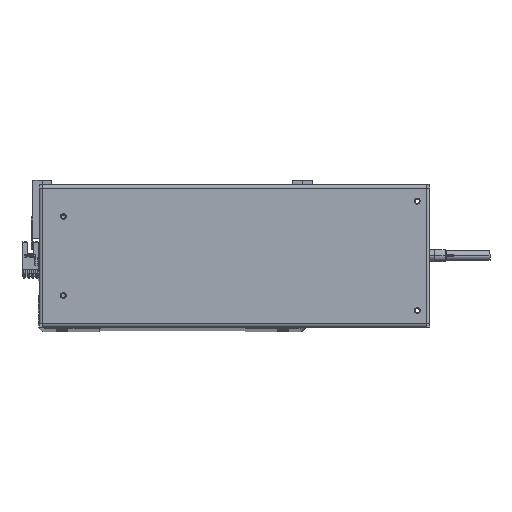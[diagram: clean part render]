
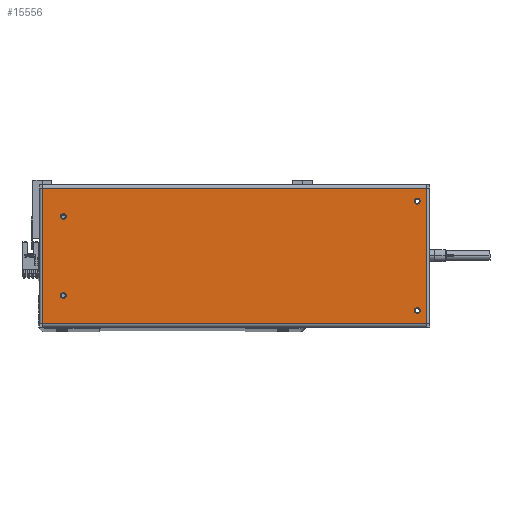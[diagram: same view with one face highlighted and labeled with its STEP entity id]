
A CAD part, top view. The second image highlights one B-rep face of the part: STEP entity #15556.
In plain terms, the highlighted planar face has unit normal (0, 0, 1).
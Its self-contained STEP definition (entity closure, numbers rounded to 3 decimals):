
#270 = EDGE_CURVE ( 'NONE', #4232, #35896, #33944, .T. ) ;
#750 = ORIENTED_EDGE ( 'NONE', *, *, #12958, .F. ) ;
#821 = CARTESIAN_POINT ( 'NONE',  ( 153., -45., 0. ) ) ;
#872 = ORIENTED_EDGE ( 'NONE', *, *, #11040, .F. ) ;
#2056 = EDGE_CURVE ( 'NONE', #13620, #38902, #14564, .T. ) ;
#2693 = CIRCLE ( 'NONE', #19523, 2.5 ) ;
#2898 = ORIENTED_EDGE ( 'NONE', *, *, #24086, .F. ) ;
#3697 = CARTESIAN_POINT ( 'NONE',  ( 150.5, 45., 0. ) ) ;
#3959 = DIRECTION ( 'NONE',  ( 0., 0., 1. ) ) ;
#4169 = VERTEX_POINT ( 'NONE', #821 ) ;
#4232 = VERTEX_POINT ( 'NONE', #16739 ) ;
#4768 = AXIS2_PLACEMENT_3D ( 'NONE', #40875, #31080, #34196 ) ;
#5448 = DIRECTION ( 'NONE',  ( 0., -1., 0. ) ) ;
#5693 = ORIENTED_EDGE ( 'NONE', *, *, #10667, .F. ) ;
#6154 = EDGE_CURVE ( 'NONE', #35896, #4232, #10100, .T. ) ;
#6794 = CARTESIAN_POINT ( 'NONE',  ( 157.7, 55.6, 0. ) ) ;
#6943 = ORIENTED_EDGE ( 'NONE', *, *, #2056, .T. ) ;
#7326 = ORIENTED_EDGE ( 'NONE', *, *, #270, .F. ) ;
#7373 = DIRECTION ( 'NONE',  ( 0., 0., 1. ) ) ;
#7808 = AXIS2_PLACEMENT_3D ( 'NONE', #3697, #3959, #17004 ) ;
#7946 = DIRECTION ( 'NONE',  ( 0., 0., 1. ) ) ;
#9148 = VERTEX_POINT ( 'NONE', #16292 ) ;
#9150 = CIRCLE ( 'NONE', #15466, 2.5 ) ;
#9424 = EDGE_CURVE ( 'NONE', #23145, #9148, #32708, .T. ) ;
#9577 = LINE ( 'NONE', #10170, #18213 ) ;
#10044 = CARTESIAN_POINT ( 'NONE',  ( -143., 32.5, 0. ) ) ;
#10100 = CIRCLE ( 'NONE', #18856, 2.5 ) ;
#10170 = CARTESIAN_POINT ( 'NONE',  ( -157.7, -55.6, 0. ) ) ;
#10316 = CARTESIAN_POINT ( 'NONE',  ( 148., -45., 0. ) ) ;
#10516 = DIRECTION ( 'NONE',  ( 1., 0., 0. ) ) ;
#10528 = EDGE_LOOP ( 'NONE', ( #34103, #25486, #6943, #18653 ) ) ;
#10667 = EDGE_CURVE ( 'NONE', #9148, #23145, #2693, .T. ) ;
#11040 = EDGE_CURVE ( 'NONE', #35048, #24884, #16368, .T. ) ;
#11467 = DIRECTION ( 'NONE',  ( 0., 0., 1. ) ) ;
#12088 = EDGE_CURVE ( 'NONE', #38902, #36491, #12622, .T. ) ;
#12622 = LINE ( 'NONE', #6794, #41572 ) ;
#12958 = EDGE_CURVE ( 'NONE', #4169, #32321, #39002, .T. ) ;
#13068 = ORIENTED_EDGE ( 'NONE', *, *, #9424, .F. ) ;
#13409 = FACE_BOUND ( 'NONE', #41351, .T. ) ;
#13543 = LINE ( 'NONE', #28562, #27704 ) ;
#13620 = VERTEX_POINT ( 'NONE', #19903 ) ;
#14547 = CIRCLE ( 'NONE', #33966, 2.5 ) ;
#14564 = LINE ( 'NONE', #37433, #29795 ) ;
#14682 = PLANE ( 'NONE',  #21462 ) ;
#15275 = CARTESIAN_POINT ( 'NONE',  ( -140.5, 32.5, 0. ) ) ;
#15376 = CARTESIAN_POINT ( 'NONE',  ( -140.5, -32.5, 0. ) ) ;
#15466 = AXIS2_PLACEMENT_3D ( 'NONE', #40294, #11467, #20989 ) ;
#15556 = ADVANCED_FACE ( 'NONE', ( #23031, #16441, #22025, #13409, #23995 ), #14682, .F. ) ;
#16169 = CARTESIAN_POINT ( 'NONE',  ( -157.6, 55.6, 0. ) ) ;
#16292 = CARTESIAN_POINT ( 'NONE',  ( -138., 32.5, 0. ) ) ;
#16368 = CIRCLE ( 'NONE', #7808, 2.5 ) ;
#16441 = FACE_BOUND ( 'NONE', #40319, .T. ) ;
#16739 = CARTESIAN_POINT ( 'NONE',  ( -138., -32.5, 0. ) ) ;
#17004 = DIRECTION ( 'NONE',  ( 1., 0., 0. ) ) ;
#17475 = CARTESIAN_POINT ( 'NONE',  ( -140.5, 32.5, 0. ) ) ;
#17659 = EDGE_LOOP ( 'NONE', ( #750, #2898 ) ) ;
#17983 = DIRECTION ( 'NONE',  ( 0., 1., 0. ) ) ;
#18068 = DIRECTION ( 'NONE',  ( -1., 0., 0. ) ) ;
#18213 = VECTOR ( 'NONE', #26171, 1000. ) ;
#18653 = ORIENTED_EDGE ( 'NONE', *, *, #12088, .T. ) ;
#18856 = AXIS2_PLACEMENT_3D ( 'NONE', #15376, #37919, #37793 ) ;
#19523 = AXIS2_PLACEMENT_3D ( 'NONE', #17475, #7946, #10516 ) ;
#19903 = CARTESIAN_POINT ( 'NONE',  ( 157.6, -55.6, 0. ) ) ;
#20657 = ORIENTED_EDGE ( 'NONE', *, *, #6154, .F. ) ;
#20808 = CARTESIAN_POINT ( 'NONE',  ( 157.6, 55.6, 0. ) ) ;
#20989 = DIRECTION ( 'NONE',  ( 1., 0., 0. ) ) ;
#21462 = AXIS2_PLACEMENT_3D ( 'NONE', #34276, #24730, #18068 ) ;
#22025 = FACE_BOUND ( 'NONE', #17659, .T. ) ;
#22913 = CARTESIAN_POINT ( 'NONE',  ( -157.6, -55.6, 0. ) ) ;
#23031 = FACE_BOUND ( 'NONE', #26206, .T. ) ;
#23145 = VERTEX_POINT ( 'NONE', #10044 ) ;
#23995 = FACE_OUTER_BOUND ( 'NONE', #10528, .T. ) ;
#24086 = EDGE_CURVE ( 'NONE', #32321, #4169, #14547, .T. ) ;
#24294 = CARTESIAN_POINT ( 'NONE',  ( -143., -32.5, 0. ) ) ;
#24730 = DIRECTION ( 'NONE',  ( 0., 0., -1. ) ) ;
#24884 = VERTEX_POINT ( 'NONE', #35514 ) ;
#25281 = EDGE_CURVE ( 'NONE', #36916, #13620, #9577, .T. ) ;
#25471 = CARTESIAN_POINT ( 'NONE',  ( 150.5, -45., 0. ) ) ;
#25486 = ORIENTED_EDGE ( 'NONE', *, *, #25281, .T. ) ;
#26171 = DIRECTION ( 'NONE',  ( 1., 0., 0. ) ) ;
#26206 = EDGE_LOOP ( 'NONE', ( #7326, #20657 ) ) ;
#27704 = VECTOR ( 'NONE', #5448, 1000. ) ;
#28468 = DIRECTION ( 'NONE',  ( 1., 0., 0. ) ) ;
#28562 = CARTESIAN_POINT ( 'NONE',  ( -157.6, 55.6, 0. ) ) ;
#29795 = VECTOR ( 'NONE', #17983, 1000. ) ;
#30092 = AXIS2_PLACEMENT_3D ( 'NONE', #15275, #35004, #37829 ) ;
#30228 = CARTESIAN_POINT ( 'NONE',  ( 150.5, -45., 0. ) ) ;
#31080 = DIRECTION ( 'NONE',  ( 0., 0., 1. ) ) ;
#32321 = VERTEX_POINT ( 'NONE', #10316 ) ;
#32645 = DIRECTION ( 'NONE',  ( -1., 0., 0. ) ) ;
#32708 = CIRCLE ( 'NONE', #30092, 2.5 ) ;
#32930 = EDGE_CURVE ( 'NONE', #36491, #36916, #13543, .T. ) ;
#33944 = CIRCLE ( 'NONE', #4768, 2.5 ) ;
#33966 = AXIS2_PLACEMENT_3D ( 'NONE', #25471, #38831, #28468 ) ;
#34103 = ORIENTED_EDGE ( 'NONE', *, *, #32930, .T. ) ;
#34196 = DIRECTION ( 'NONE',  ( 1., 0., 0. ) ) ;
#34276 = CARTESIAN_POINT ( 'NONE',  ( 157.7, 58.5, 0. ) ) ;
#35004 = DIRECTION ( 'NONE',  ( 0., 0., 1. ) ) ;
#35048 = VERTEX_POINT ( 'NONE', #40503 ) ;
#35514 = CARTESIAN_POINT ( 'NONE',  ( 148., 45., 0. ) ) ;
#35896 = VERTEX_POINT ( 'NONE', #24294 ) ;
#36491 = VERTEX_POINT ( 'NONE', #16169 ) ;
#36916 = VERTEX_POINT ( 'NONE', #22913 ) ;
#37433 = CARTESIAN_POINT ( 'NONE',  ( 157.6, -55.6, 0. ) ) ;
#37793 = DIRECTION ( 'NONE',  ( 1., 0., 0. ) ) ;
#37829 = DIRECTION ( 'NONE',  ( 1., 0., 0. ) ) ;
#37919 = DIRECTION ( 'NONE',  ( 0., 0., 1. ) ) ;
#38599 = ORIENTED_EDGE ( 'NONE', *, *, #39824, .F. ) ;
#38831 = DIRECTION ( 'NONE',  ( 0., 0., 1. ) ) ;
#38902 = VERTEX_POINT ( 'NONE', #20808 ) ;
#39002 = CIRCLE ( 'NONE', #41814, 2.5 ) ;
#39824 = EDGE_CURVE ( 'NONE', #24884, #35048, #9150, .T. ) ;
#40022 = DIRECTION ( 'NONE',  ( 1., 0., 0. ) ) ;
#40294 = CARTESIAN_POINT ( 'NONE',  ( 150.5, 45., 0. ) ) ;
#40319 = EDGE_LOOP ( 'NONE', ( #5693, #13068 ) ) ;
#40503 = CARTESIAN_POINT ( 'NONE',  ( 153., 45., 0. ) ) ;
#40875 = CARTESIAN_POINT ( 'NONE',  ( -140.5, -32.5, 0. ) ) ;
#41351 = EDGE_LOOP ( 'NONE', ( #872, #38599 ) ) ;
#41572 = VECTOR ( 'NONE', #32645, 1000. ) ;
#41814 = AXIS2_PLACEMENT_3D ( 'NONE', #30228, #7373, #40022 ) ;
